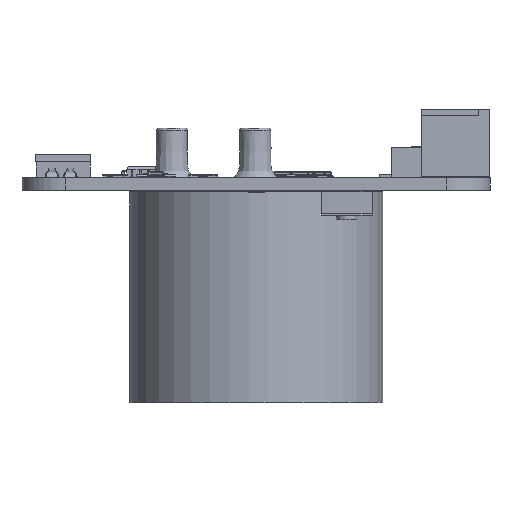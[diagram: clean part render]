
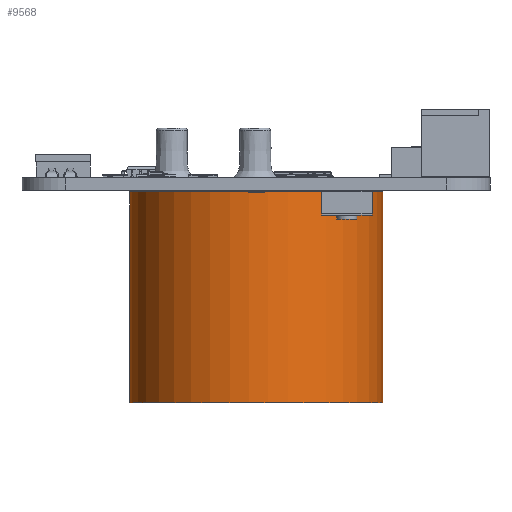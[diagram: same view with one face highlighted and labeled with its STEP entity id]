
A CAD part, front view. The second image highlights one B-rep face of the part: STEP entity #9568.
In plain terms, the highlighted free-form (B-spline) face has degree [2, 1] with [5, 2] control points.
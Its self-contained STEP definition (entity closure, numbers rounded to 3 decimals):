
#4517=(
BOUNDED_SURFACE()
B_SPLINE_SURFACE(2,1,((#117750,#117751),(#117752,#117753),(#117754,#117755),
(#117756,#117757),(#117758,#117759)),.UNSPECIFIED.,.F.,.F.,.F.)
B_SPLINE_SURFACE_WITH_KNOTS((3,2,3),(2,2),(0.,15.708,31.416),
(0.,16.8),.UNSPECIFIED.)
GEOMETRIC_REPRESENTATION_ITEM()
RATIONAL_B_SPLINE_SURFACE(((1.,1.),(0.707,0.707),
(1.,1.),(0.707,0.707),(1.,1.)))
REPRESENTATION_ITEM('')
SURFACE()
);
#9568=ADVANCED_FACE('',(#12267),#4517,.T.);
#12267=FACE_OUTER_BOUND('',#14946,.T.);
#14946=EDGE_LOOP('',(#26220,#26221,#26222,#26223));
#26220=ORIENTED_EDGE('',*,*,#32794,.T.);
#26221=ORIENTED_EDGE('',*,*,#32785,.F.);
#26222=ORIENTED_EDGE('',*,*,#32793,.F.);
#26223=ORIENTED_EDGE('',*,*,#32792,.T.);
#32785=EDGE_CURVE('',#41265,#41271,#37362,.T.);
#32792=EDGE_CURVE('',#41264,#41270,#37369,.T.);
#32793=EDGE_CURVE('',#41264,#41265,#37370,.T.);
#32794=EDGE_CURVE('',#41270,#41271,#37371,.T.);
#37362=(
BOUNDED_CURVE()
B_SPLINE_CURVE(2,(#117825,#117826,#117827,#117828,#117829),
 .UNSPECIFIED.,.F.,.F.)
B_SPLINE_CURVE_WITH_KNOTS((3,2,3),(0.,15.708,31.416),
 .UNSPECIFIED.)
CURVE()
GEOMETRIC_REPRESENTATION_ITEM()
RATIONAL_B_SPLINE_CURVE((1.,0.707,1.,0.707,1.))
REPRESENTATION_ITEM('')
);
#37369=(
BOUNDED_CURVE()
B_SPLINE_CURVE(2,(#117854,#117855,#117856,#117857,#117858),
 .UNSPECIFIED.,.F.,.F.)
B_SPLINE_CURVE_WITH_KNOTS((3,2,3),(0.,15.708,31.416),
 .UNSPECIFIED.)
CURVE()
GEOMETRIC_REPRESENTATION_ITEM()
RATIONAL_B_SPLINE_CURVE((1.,0.707,1.,0.707,1.))
REPRESENTATION_ITEM('')
);
#37370=(
BOUNDED_CURVE()
B_SPLINE_CURVE(1,(#117859,#117860),.UNSPECIFIED.,.F.,.F.)
B_SPLINE_CURVE_WITH_KNOTS((2,2),(0.13,16.8),.UNSPECIFIED.)
CURVE()
GEOMETRIC_REPRESENTATION_ITEM()
RATIONAL_B_SPLINE_CURVE((1.,1.))
REPRESENTATION_ITEM('')
);
#37371=(
BOUNDED_CURVE()
B_SPLINE_CURVE(1,(#117861,#117862),.UNSPECIFIED.,.F.,.F.)
B_SPLINE_CURVE_WITH_KNOTS((2,2),(0.13,16.8),.UNSPECIFIED.)
CURVE()
GEOMETRIC_REPRESENTATION_ITEM()
RATIONAL_B_SPLINE_CURVE((1.,1.))
REPRESENTATION_ITEM('')
);
#41264=VERTEX_POINT('',#117813);
#41265=VERTEX_POINT('',#117814);
#41270=VERTEX_POINT('',#117819);
#41271=VERTEX_POINT('',#117820);
#117750=CARTESIAN_POINT('',(10.014,0.,15.874));
#117751=CARTESIAN_POINT('',(10.014,0.,-0.926));
#117752=CARTESIAN_POINT('',(10.014,-10.,15.874));
#117753=CARTESIAN_POINT('',(10.014,-10.,-0.926));
#117754=CARTESIAN_POINT('',(0.014,-10.,15.874));
#117755=CARTESIAN_POINT('',(0.014,-10.,-0.926));
#117756=CARTESIAN_POINT('',(-9.986,-10.,15.874));
#117757=CARTESIAN_POINT('',(-9.986,-10.,-0.926));
#117758=CARTESIAN_POINT('',(-9.986,0.,15.874));
#117759=CARTESIAN_POINT('',(-9.986,0.,-0.926));
#117813=CARTESIAN_POINT('',(10.014,0.,15.744));
#117814=CARTESIAN_POINT('',(10.014,0.,-0.926));
#117819=CARTESIAN_POINT('',(-9.986,0.,15.744));
#117820=CARTESIAN_POINT('',(-9.986,0.,-0.926));
#117825=CARTESIAN_POINT('',(10.014,0.,-0.926));
#117826=CARTESIAN_POINT('',(10.014,-10.,-0.926));
#117827=CARTESIAN_POINT('',(0.014,-10.,-0.926));
#117828=CARTESIAN_POINT('',(-9.986,-10.,-0.926));
#117829=CARTESIAN_POINT('',(-9.986,0.,-0.926));
#117854=CARTESIAN_POINT('',(10.014,0.,15.744));
#117855=CARTESIAN_POINT('',(10.014,-10.,15.744));
#117856=CARTESIAN_POINT('',(0.014,-10.,15.744));
#117857=CARTESIAN_POINT('',(-9.986,-10.,15.744));
#117858=CARTESIAN_POINT('',(-9.986,0.,15.744));
#117859=CARTESIAN_POINT('',(10.014,0.,15.744));
#117860=CARTESIAN_POINT('',(10.014,0.,-0.926));
#117861=CARTESIAN_POINT('',(-9.986,0.,15.744));
#117862=CARTESIAN_POINT('',(-9.986,0.,-0.926));
